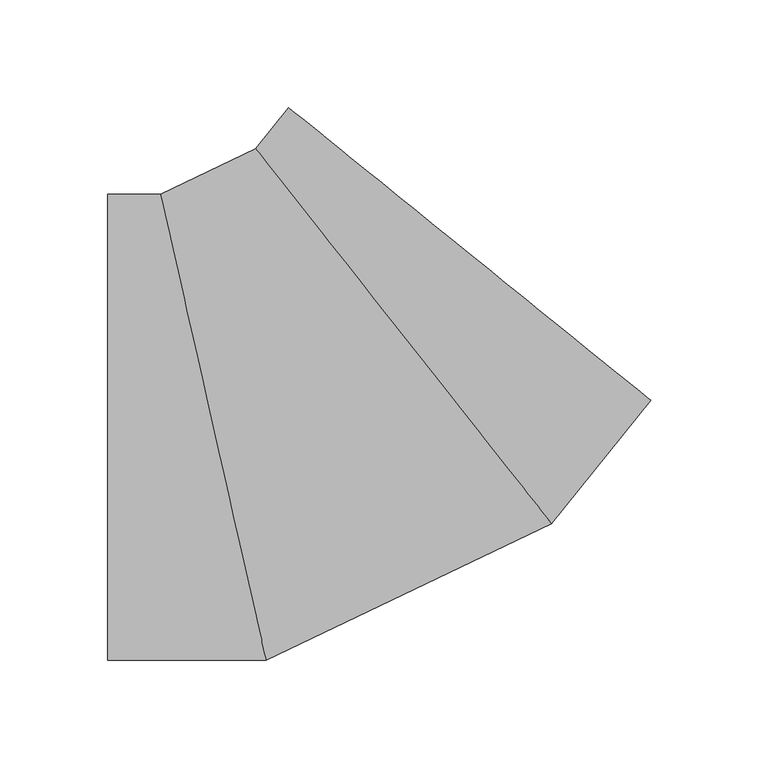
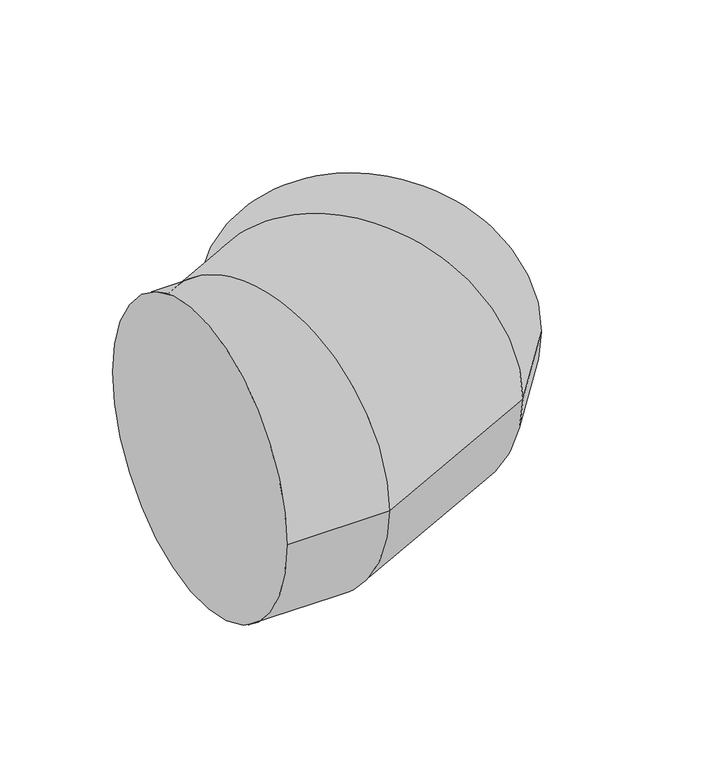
"""IFC4 building model written with IfcOpenShell, lengths in millimetres: duct fitting geometry, 17_Отвод_Заключение : 10_Отвод_3D объект."""

import ifcopenshell
import ifcopenshell.guid

model = None  # the IFC model being written
_history = None  # IfcOwnerHistory: only IFC2X3 demands one
_inside = {}  # id of a spatial element -> (the spatial element, [elements in it])
_under = {}  # id of a project, library or spatial element -> (it, [spatial elements below it])
_declared = {}  # id of a project -> (the project, [libraries it declares])
_typed = {}  # id of a type object -> (the type object, [elements of that type])
_made_of = {}  # id of a material, layer set ... -> (it, [elements and type objects made of it])


def new_model(schema):
    """Start an empty IFC model of exactly this schema.

    Asked for "IFC4X3", IfcOpenShell would pick the latest addendum, in which some entities
    have other attributes; the version numbers below select the first issue.
    IFC2X3 requires an IfcOwnerHistory on every rooted entity: one is made here for all.
    """
    global model, _history
    if schema == "IFC4X3":
        model = ifcopenshell.file(schema_version=(4, 3, 0, 0))
    else:
        model = ifcopenshell.file(schema=schema)
    _inside.clear()
    _under.clear()
    _declared.clear()
    _typed.clear()
    _made_of.clear()
    _history = None
    if model.schema == "IFC2X3":
        org = make("IfcOrganization", Name="unknown")
        user = make(
            "IfcPersonAndOrganization",
            ThePerson=make("IfcPerson", FamilyName="unknown"),
            TheOrganization=org,
        )
        app = make(
            "IfcApplication",
            ApplicationDeveloper=org,
            Version="unknown",
            ApplicationFullName="unknown",
            ApplicationIdentifier="unknown",
        )
        _history = make(
            "IfcOwnerHistory",
            OwningUser=user,
            OwningApplication=app,
            ChangeAction="ADDED",
            CreationDate=0,
        )
    return model


def make(cls, **values):
    """One entity of the class cls with the attributes given. An attribute that is None is left unset."""
    return model.create_entity(
        cls, **{name: value for name, value in values.items() if value is not None}
    )


def rooted(cls, **values):
    """An entity with a GlobalId (a new one), such as an element, a storey or a relation."""
    return make(cls, GlobalId=ifcopenshell.guid.new(), OwnerHistory=_history, **values)


def si_unit(unit_type, name, prefix=None):
    """IfcSIUnit, for example si_unit("LENGTHUNIT", "METRE", prefix="MILLI")."""
    return make("IfcSIUnit", UnitType=unit_type, Prefix=prefix, Name=name)


def assignment(units):
    """IfcUnitAssignment: the units of a project."""
    return None if units is None else make("IfcUnitAssignment", Units=units)


def point(xyz):
    """IfcCartesianPoint."""
    return None if xyz is None else make("IfcCartesianPoint", Coordinates=xyz)


def direction(xyz):
    """IfcDirection."""
    return None if xyz is None else make("IfcDirection", DirectionRatios=xyz)


def frame(location, z_axis=None, x_axis=None):
    """IfcAxis2Placement3D, a coordinate frame: its origin and axes. An axis left out is left unset."""
    return make(
        "IfcAxis2Placement3D",
        Location=point(location),
        Axis=direction(z_axis),
        RefDirection=direction(x_axis),
    )


def origin():
    """The frame at (0, 0, 0) with its axes left unset."""
    return frame((0.0, 0.0, 0.0))


def place(relative_to, where):
    """IfcLocalPlacement: puts the frame where relative to a parent placement (None: the world)."""
    return make(
        "IfcLocalPlacement", PlacementRelTo=relative_to, RelativePlacement=where
    )


def context(
    kind, dimensions, precision=None, world=None, true_north=None, identifier=None
):
    """IfcGeometricRepresentationContext, for example the 3D "Model" context."""
    return make(
        "IfcGeometricRepresentationContext",
        ContextIdentifier=identifier,
        ContextType=kind,
        CoordinateSpaceDimension=dimensions,
        Precision=precision,
        WorldCoordinateSystem=world,
        TrueNorth=true_north,
    )


def project(units=None, contexts=None):
    """IfcProject with its units and contexts."""
    return rooted(
        "IfcProject",
        Name="project",
        RepresentationContexts=contexts,
        UnitsInContext=assignment(units),
    )


def spatial(cls, under=None, at=None, **own):
    """A site, building, storey or space (cls), placed at a placement, below another one or the project."""
    s = rooted(cls, ObjectPlacement=at, **own)
    if under is not None:
        _under.setdefault(under.id(), (under, []))[1].append(s)
    return s


def circle_curve(where, radius):
    """IfcCircle in the frame where."""
    return make("IfcCircle", Position=where, Radius=radius)


def ellipse_curve(where, semi_axis1, semi_axis2):
    """IfcEllipse in the frame where."""
    return make(
        "IfcEllipse", Position=where, SemiAxis1=semi_axis1, SemiAxis2=semi_axis2
    )


def shape(context_of_items, identifier, shape_type, items):
    """IfcShapeRepresentation: the items that make up one representation, for example the "Body"."""
    return make(
        "IfcShapeRepresentation",
        ContextOfItems=context_of_items,
        RepresentationIdentifier=identifier,
        RepresentationType=shape_type,
        Items=items,
    )


def source(mapping_origin, context_of_items, identifier, shape_type, items):
    """IfcRepresentationMap: a shape defined once, which mapped items show again and again."""
    return make(
        "IfcRepresentationMap",
        MappingOrigin=mapping_origin,
        MappedRepresentation=shape(context_of_items, identifier, shape_type, items),
    )


def transform(
    local_origin,
    x_axis=None,
    y_axis=None,
    z_axis=None,
    scale=None,
    scale2=None,
    scale3=None,
    uniform=True,
):
    """IfcCartesianTransformationOperator3D, or its non-uniform kind. x_axis, y_axis, z_axis: its Axis1, 2, 3."""
    if uniform:
        return make(
            "IfcCartesianTransformationOperator3D",
            Axis1=direction(x_axis),
            Axis2=direction(y_axis),
            LocalOrigin=point(local_origin),
            Scale=scale,
            Axis3=direction(z_axis),
        )
    return make(
        "IfcCartesianTransformationOperator3DnonUniform",
        Axis1=direction(x_axis),
        Axis2=direction(y_axis),
        LocalOrigin=point(local_origin),
        Scale=scale,
        Axis3=direction(z_axis),
        Scale2=scale2,
        Scale3=scale3,
    )


def mapped(mapping_source, mapping_target):
    """IfcMappedItem: shows the shape of a source again, moved by a transform."""
    return make(
        "IfcMappedItem", MappingSource=mapping_source, MappingTarget=mapping_target
    )


def made_of(thing, what):
    """Note that an element or type object is made of a material, layer set ...; save() writes the relation."""
    if what is not None:
        _made_of.setdefault(what.id(), (what, []))[1].append(thing)
    return thing


def element(
    cls,
    number,
    at=None,
    inside=None,
    cuts=None,
    type_object=None,
    material=None,
    context=None,
    identifier="Body",
    shape_type=None,
    held_by="IfcProductDefinitionShape",
    body=None,
    shapes=None,
    **own,
):
    """One element of the class cls, such as IfcWall. Its Tag is "e" and its number.

    at: its placement. inside: the storey or other place that contains it. cuts: it is an
    opening in that element (IfcRelVoidsElement). A single representation is given by context,
    identifier, shape_type and body (its items); several are given by shapes. held_by: the class
    of the entity that holds the representations. save() writes the other relations.
    """
    e = rooted(cls, Tag="e%d" % number, ObjectPlacement=at, **own)
    if body is not None:
        shapes = [shape(context, identifier, shape_type, body)]
    if shapes is not None:
        e.Representation = make(held_by, Representations=shapes)
    if inside is not None:
        _inside.setdefault(inside.id(), (inside, []))[1].append(e)
    if cuts is not None:
        rooted(
            "IfcRelVoidsElement", RelatingBuildingElement=cuts, RelatedOpeningElement=e
        )
    if type_object is not None:
        _typed.setdefault(type_object.id(), (type_object, []))[1].append(e)
    return made_of(e, material)


def aggregate(whole, parts):
    """IfcRelAggregates: a whole, such as a stair, and the parts it consists of."""
    return rooted("IfcRelAggregates", RelatingObject=whole, RelatedObjects=parts)


def save(model, path):
    """Write the relations noted so far, then the file.

    IfcRelAggregates (storeys below a building ...), IfcRelContainedInSpatialStructure (elements
    in a storey), IfcRelDefinesByType, IfcRelAssociatesMaterial and IfcRelDeclares: one each for
    every whole, place, type object, material and project.
    """
    for whole, parts in _under.values():
        aggregate(whole, parts)
    for where, things in _inside.values():
        rooted(
            "IfcRelContainedInSpatialStructure",
            RelatedElements=things,
            RelatingStructure=where,
        )
    for kind, things in _typed.values():
        rooted("IfcRelDefinesByType", RelatedObjects=things, RelatingType=kind)
    for what, things in _made_of.values():
        rooted("IfcRelAssociatesMaterial", RelatedObjects=things, RelatingMaterial=what)
    for by, libraries in _declared.values():
        rooted("IfcRelDeclares", RelatingContext=by, RelatedDefinitions=libraries)
    model.write(path)


def plane_surface(at):
    """IfcPlane: the flat surface through the origin of the frame at, square to its z axis."""
    return make("IfcPlane", Position=at)


def cylinder_surface(at, radius):
    """IfcCylindricalSurface: all points at the distance radius from the z axis of the frame at."""
    return make("IfcCylindricalSurface", Position=at, Radius=radius)


def advanced_brep(points, edges, surfaces, faces):
    """IfcAdvancedBrep: a solid bounded by faces that lie on surfaces and meet in shared edges.

    An edge is (start, end): straight between two places in points (the first is 0);
    or (start, end, curve); or (start, end, curve, False) where it runs against its curve.
    A face is (place in surfaces, loops), or (place, loops, False) where it looks against
    its surface's normal. A loop lists edges by number (the first is 1), with a minus sign
    where the edge is run from its end to its start. The first loop is the outer one.
    """
    corners = [point(p) for p in points]
    vertices = [make("IfcVertexPoint", VertexGeometry=c) for c in corners]
    made = []
    for start, end, *more in edges:
        made.append(
            make(
                "IfcEdgeCurve",
                EdgeStart=vertices[start],
                EdgeEnd=vertices[end],
                EdgeGeometry=more[0] if more else make("IfcPolyline", Points=[corners[start], corners[end]]),
                SameSense=more[1] if len(more) > 1 else True,
            )
        )
    hull = []
    for where, loops, *sense in faces:
        bounds = []
        for j, loop in enumerate(loops):
            ring = [make("IfcOrientedEdge", EdgeElement=made[abs(k) - 1], Orientation=k > 0) for k in loop]
            bounds.append(
                make(
                    "IfcFaceOuterBound" if j == 0 else "IfcFaceBound",
                    Bound=make("IfcEdgeLoop", EdgeList=ring),
                    Orientation=True,
                )
            )
        hull.append(make("IfcAdvancedFace", Bounds=bounds, FaceSurface=surfaces[where], SameSense=sense[0] if sense else True))
    return make("IfcAdvancedBrep", Outer=make("IfcClosedShell", CfsFaces=hull))


def duct_fitting_836300f1(model_context):
    return source(origin(), model_context, "Body", "AdvancedBrep", [
        advanced_brep(
        [(-103.1940647, -108.0, 0.0), (-103.1940647, 108.0, 0.0), (-29.7728892, -108.0, 0.0), (-78.7203396, 108.0, 0.0), (102.7249406, -44.6991221, 0.0), (-34.5543963, 129.1002926, 0.0), (148.8583403, 12.4181121, 0.0), (-19.1765964, 148.1393707, 0.0)],
        [
            (0, 1, circle_curve(frame((-103.1940647, 0.0, 0.0), z_axis=(-1.0, 0.0, 0.0), x_axis=(0.0, 1.0, 0.0)), 108.0)),
            (1, 0, circle_curve(frame((-103.1940647, 0.0, 0.0), z_axis=(-1.0, 0.0, 0.0), x_axis=(0.0, 1.0, 0.0)), 108.0)),
            (0, 2),
            (2, 3, ellipse_curve(frame((-54.2466144, 0.0, 0.0), z_axis=(-0.9752726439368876, -0.22100513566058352, 0.0), x_axis=(-0.2210051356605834, 0.9752726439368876, 0.0)), 110.7382645, 108.0)),
            (3, 1),
            (3, 2, ellipse_curve(frame((-54.2466144, 0.0, 0.0), z_axis=(-0.9752726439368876, -0.22100513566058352, 0.0), x_axis=(-0.2210051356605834, 0.9752726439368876, 0.0)), 110.7382645, 108.0)),
            (2, 4),
            (4, 5, ellipse_curve(frame((34.0852721, 42.2005853, 0.0), z_axis=(-0.784730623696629, -0.6198369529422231, 0.0), x_axis=(-0.6198369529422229, 0.7847306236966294, 0.0)), 110.7382645, 108.0)),
            (5, 3),
            (5, 4, ellipse_curve(frame((34.0852721, 42.2005853, 0.0), z_axis=(-0.784730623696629, -0.6198369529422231, 0.0), x_axis=(-0.6198369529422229, 0.7847306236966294, 0.0)), 110.7382645, 108.0)),
            (4, 6),
            (6, 7, circle_curve(frame((64.840872, 80.2787414, 0.0), z_axis=(-0.6283391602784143, -0.7779395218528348, 0.0), x_axis=(-0.7779395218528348, 0.6283391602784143, 0.0)), 108.0)),
            (7, 5),
            (7, 6, circle_curve(frame((64.840872, 80.2787414, 0.0), z_axis=(-0.6283391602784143, -0.7779395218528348, 0.0), x_axis=(-0.7779395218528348, 0.6283391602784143, 0.0)), 108.0)),
        ],
        [
            plane_surface(frame((-103.1940647, 0.0, 0.0), z_axis=(-1.0, 0.0, 0.0), x_axis=(0.0, 0.0, 1.0))),
            cylinder_surface(frame((-103.1940647, 0.0, 0.0), z_axis=(-1.0, 0.0, 0.0), x_axis=(0.0, 1.0, 0.0)), 108.0),
            cylinder_surface(frame((-54.2466144, 0.0, 0.0), z_axis=(-0.9023134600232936, -0.4310805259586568, 0.0), x_axis=(-0.4310805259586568, 0.9023134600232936, 0.0)), 108.0),
            cylinder_surface(frame((34.0852721, 42.2005853, 0.0), z_axis=(-0.6283391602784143, -0.7779395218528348, 0.0), x_axis=(-0.7779395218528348, 0.6283391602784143, 0.0)), 108.0),
            plane_surface(frame((64.840872, 80.2787414, 0.0), z_axis=(0.6283391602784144, 0.7779395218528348, 0.0), x_axis=(0.0, 0.0, 1.0))),
        ],
        [
            (0, [[1, 2]]),
            (1, [[-1, 3, 4, 5]]),
            (1, [[-2, -5, 6, -3]]),
            (2, [[-4, 7, 8, 9]]),
            (2, [[-6, -9, 10, -7]]),
            (3, [[-8, 11, 12, 13]]),
            (3, [[-10, -13, 14, -11]]),
            (4, [[-14, -12]]),
        ],
    ),
    ])


if __name__ == "__main__":
    model = new_model("IFC4")
    model_context = context("Model", 3, world=origin())
    ifc_project = project(units=[si_unit("LENGTHUNIT", "METRE", prefix="MILLI")], contexts=[model_context])
    site = spatial("IfcSite", under=ifc_project)
    building = spatial("IfcBuilding", under=site)
    placement = place(None, origin())
    duct_fitting_shape = duct_fitting_836300f1(model_context)
    element("IfcDuctFitting", 1, ObjectType="17_Отвод_Заключение : 10_Отвод_3D объект", at=placement, inside=building, context=model_context, shape_type="MappedRepresentation", body=[
        mapped(duct_fitting_shape, transform((0.0, 0.0, 0.0), x_axis=(1.0, 0.0, 0.0), y_axis=(0.0, 1.0, 0.0), z_axis=(0.0, 0.0, 1.0))),
    ])
    save(model, "model.ifc")
